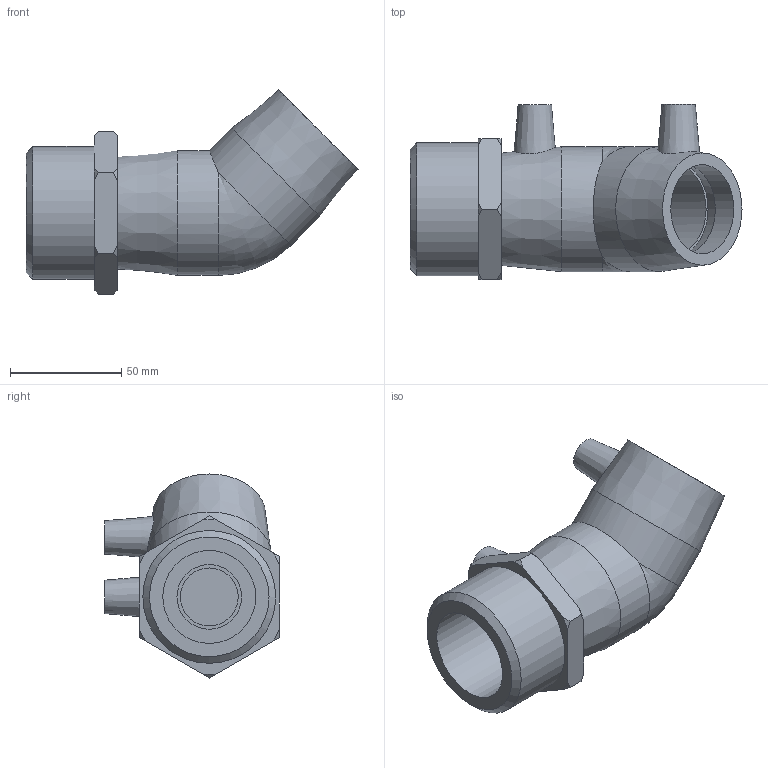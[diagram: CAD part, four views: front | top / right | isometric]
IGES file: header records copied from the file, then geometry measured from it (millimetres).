
Global section: file name: 492604040020.ipt; native system: Autodesk Inventor 2015; preprocessor: unknown; author: KIM; date: 20200202.122423; units: millimetre
Bounding box: 149 x 78.52 x 91.57 mm (x, y, z)
Volume: 233211.9 mm3; surface area: 54017.4 mm2
Topology: 1 solids, 2 shells, 59 faces, 142 edges, 97 vertices
Faces by surface type: plane 24, cone 17, revolution 10, cylinder 7, bspline 1
Full cylindrical faces by diameter (mm): 4 x2, 40 x2, 56 x2, 59.614 x1
